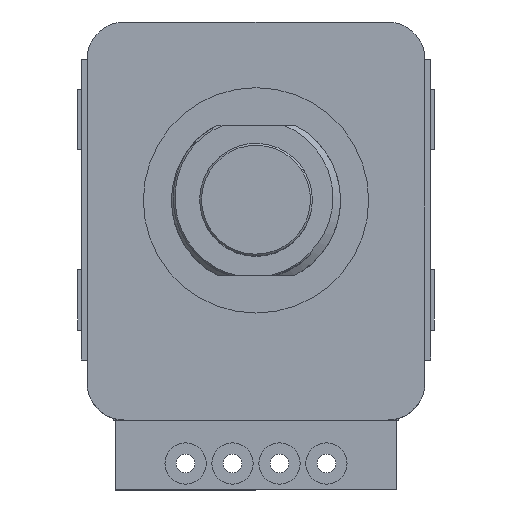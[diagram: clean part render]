
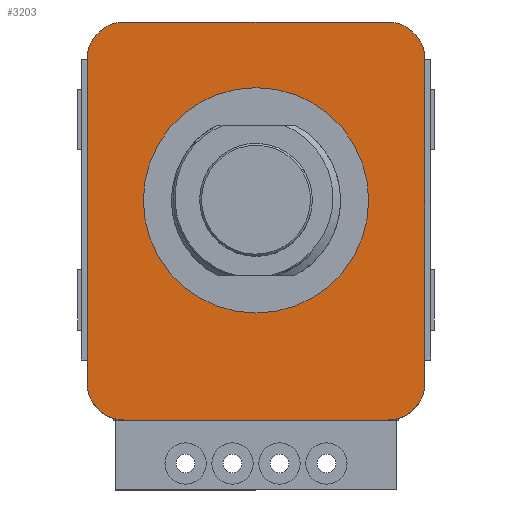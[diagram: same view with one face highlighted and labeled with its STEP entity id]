
A CAD part, top view. The second image highlights one B-rep face of the part: STEP entity #3203.
In plain terms, the highlighted planar face has unit normal (0, 0, 1).
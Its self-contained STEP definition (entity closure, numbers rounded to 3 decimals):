
#682 = AXIS2_PLACEMENT_3D ( 'NONE', #4864, #4865, #4866 ) ;
#1114 = VERTEX_POINT ( 'NONE', #4181 ) ;
#1115 = VERTEX_POINT ( 'NONE', #4182 ) ;
#1282 = VERTEX_POINT ( 'NONE', #4349 ) ;
#1283 = VERTEX_POINT ( 'NONE', #4350 ) ;
#1284 = VERTEX_POINT ( 'NONE', #4351 ) ;
#1285 = VERTEX_POINT ( 'NONE', #4352 ) ;
#1286 = VERTEX_POINT ( 'NONE', #4353 ) ;
#1287 = VERTEX_POINT ( 'NONE', #4354 ) ;
#1288 = VERTEX_POINT ( 'NONE', #4355 ) ;
#1289 = VERTEX_POINT ( 'NONE', #4356 ) ;
#2082 = EDGE_CURVE ( 'NONE', #1114, #1115, #3292, .T. ) ;
#2726 = EDGE_LOOP ( 'NONE', ( #2823, #2825, #2824, #2826, #2828, #2827, #2829, #2830 ) ) ;
#2727 = EDGE_LOOP ( 'NONE', ( #2832, #2833 ) ) ;
#2823 = ORIENTED_EDGE ( 'NONE', *, *, #3125, .T. ) ;
#2824 = ORIENTED_EDGE ( 'NONE', *, *, #3117, .T. ) ;
#2825 = ORIENTED_EDGE ( 'NONE', *, *, #3124, .T. ) ;
#2826 = ORIENTED_EDGE ( 'NONE', *, *, #3126, .T. ) ;
#2827 = ORIENTED_EDGE ( 'NONE', *, *, #3128, .T. ) ;
#2828 = ORIENTED_EDGE ( 'NONE', *, *, #3127, .T. ) ;
#2829 = ORIENTED_EDGE ( 'NONE', *, *, #3129, .T. ) ;
#2830 = ORIENTED_EDGE ( 'NONE', *, *, #3130, .T. ) ;
#2832 = ORIENTED_EDGE ( 'NONE', *, *, #3131, .F. ) ;
#2833 = ORIENTED_EDGE ( 'NONE', *, *, #2082, .F. ) ;
#3117 = EDGE_CURVE ( 'NONE', #1283, #1282, #24208, .T. ) ;
#3124 = EDGE_CURVE ( 'NONE', #1285, #1283, #6654, .T. ) ;
#3125 = EDGE_CURVE ( 'NONE', #1284, #1285, #24232, .T. ) ;
#3126 = EDGE_CURVE ( 'NONE', #1282, #1286, #6655, .T. ) ;
#3127 = EDGE_CURVE ( 'NONE', #1286, #1287, #24238, .T. ) ;
#3128 = EDGE_CURVE ( 'NONE', #1287, #1288, #6656, .T. ) ;
#3129 = EDGE_CURVE ( 'NONE', #1288, #1289, #24244, .T. ) ;
#3130 = EDGE_CURVE ( 'NONE', #1289, #1284, #6657, .T. ) ;
#3131 = EDGE_CURVE ( 'NONE', #1115, #1114, #6658, .T. ) ;
#3203 = ADVANCED_FACE ( 'NONE', ( #5862, #5860 ), #24467, .T. ) ;
#3292 = CIRCLE ( 'NONE', #682, 6. ) ;
#4181 = CARTESIAN_POINT ( 'NONE',  ( 6., 0., 8. ) ) ;
#4182 = CARTESIAN_POINT ( 'NONE',  ( -6., 0., 8. ) ) ;
#4349 = CARTESIAN_POINT ( 'NONE',  ( 7., -11.7, 8. ) ) ;
#4350 = CARTESIAN_POINT ( 'NONE',  ( -7., -11.7, 8. ) ) ;
#4351 = CARTESIAN_POINT ( 'NONE',  ( -9., 7.5, 8. ) ) ;
#4352 = CARTESIAN_POINT ( 'NONE',  ( -9., -9.7, 8. ) ) ;
#4353 = CARTESIAN_POINT ( 'NONE',  ( 9., -9.7, 8. ) ) ;
#4354 = CARTESIAN_POINT ( 'NONE',  ( 9., 7.5, 8. ) ) ;
#4355 = CARTESIAN_POINT ( 'NONE',  ( 7., 9.5, 8. ) ) ;
#4356 = CARTESIAN_POINT ( 'NONE',  ( -7., 9.5, 8. ) ) ;
#4864 = CARTESIAN_POINT ( 'NONE',  ( 0., 0., 8. ) ) ;
#4865 = DIRECTION ( 'NONE',  ( 0., 0., 1. ) ) ;
#4866 = DIRECTION ( 'NONE',  ( 1., 0., 0. ) ) ;
#5773 = VECTOR ( 'NONE', #24210, 1000. ) ;
#5774 = AXIS2_PLACEMENT_3D ( 'NONE', #24225, #24229, #24230 ) ;
#5776 = AXIS2_PLACEMENT_3D ( 'NONE', #24231, #24235, #24236 ) ;
#5777 = AXIS2_PLACEMENT_3D ( 'NONE', #24237, #24241, #24242 ) ;
#5779 = AXIS2_PLACEMENT_3D ( 'NONE', #24243, #24247, #24248 ) ;
#5781 = AXIS2_PLACEMENT_3D ( 'NONE', #24249, #24250, #24251 ) ;
#5782 = VECTOR ( 'NONE', #24234, 1000. ) ;
#5783 = VECTOR ( 'NONE', #24240, 1000. ) ;
#5784 = VECTOR ( 'NONE', #24246, 1000. ) ;
#5860 = FACE_BOUND ( 'NONE', #2727, .T. ) ;
#5862 = FACE_OUTER_BOUND ( 'NONE', #2726, .T. ) ;
#5867 = AXIS2_PLACEMENT_3D ( 'NONE', #24468, #24469, #24470 ) ;
#6654 = CIRCLE ( 'NONE', #5774, 2. ) ;
#6655 = CIRCLE ( 'NONE', #5776, 2. ) ;
#6656 = CIRCLE ( 'NONE', #5777, 2. ) ;
#6657 = CIRCLE ( 'NONE', #5779, 2. ) ;
#6658 = CIRCLE ( 'NONE', #5781, 6. ) ;
#24208 = LINE ( 'NONE', #24209, #5773 ) ;
#24209 = CARTESIAN_POINT ( 'NONE',  ( -9., -11.7, 8. ) ) ;
#24210 = DIRECTION ( 'NONE',  ( 1., 0., 0. ) ) ;
#24225 = CARTESIAN_POINT ( 'NONE',  ( -7., -9.7, 8. ) ) ;
#24229 = DIRECTION ( 'NONE',  ( 0., 0., 1. ) ) ;
#24230 = DIRECTION ( 'NONE',  ( 1., 0., 0. ) ) ;
#24231 = CARTESIAN_POINT ( 'NONE',  ( 7., -9.7, 8. ) ) ;
#24232 = LINE ( 'NONE', #24233, #5782 ) ;
#24233 = CARTESIAN_POINT ( 'NONE',  ( -9., 9.5, 8. ) ) ;
#24234 = DIRECTION ( 'NONE',  ( 0., -1., 0. ) ) ;
#24235 = DIRECTION ( 'NONE',  ( 0., 0., 1. ) ) ;
#24236 = DIRECTION ( 'NONE',  ( 1., 0., 0. ) ) ;
#24237 = CARTESIAN_POINT ( 'NONE',  ( 7., 7.5, 8. ) ) ;
#24238 = LINE ( 'NONE', #24239, #5783 ) ;
#24239 = CARTESIAN_POINT ( 'NONE',  ( 9., 9.5, 8. ) ) ;
#24240 = DIRECTION ( 'NONE',  ( 0., 1., 0. ) ) ;
#24241 = DIRECTION ( 'NONE',  ( 0., 0., 1. ) ) ;
#24242 = DIRECTION ( 'NONE',  ( 1., 0., 0. ) ) ;
#24243 = CARTESIAN_POINT ( 'NONE',  ( -7., 7.5, 8. ) ) ;
#24244 = LINE ( 'NONE', #24245, #5784 ) ;
#24245 = CARTESIAN_POINT ( 'NONE',  ( -9., 9.5, 8. ) ) ;
#24246 = DIRECTION ( 'NONE',  ( -1., 0., 0. ) ) ;
#24247 = DIRECTION ( 'NONE',  ( 0., 0., 1. ) ) ;
#24248 = DIRECTION ( 'NONE',  ( 1., 0., 0. ) ) ;
#24249 = CARTESIAN_POINT ( 'NONE',  ( 0., 0., 8. ) ) ;
#24250 = DIRECTION ( 'NONE',  ( 0., 0., 1. ) ) ;
#24251 = DIRECTION ( 'NONE',  ( 1., 0., 0. ) ) ;
#24467 = PLANE ( 'NONE',  #5867 ) ;
#24468 = CARTESIAN_POINT ( 'NONE',  ( -9., -11.7, 8. ) ) ;
#24469 = DIRECTION ( 'NONE',  ( 0., 0., 1. ) ) ;
#24470 = DIRECTION ( 'NONE',  ( 1., 0., 0. ) ) ;
